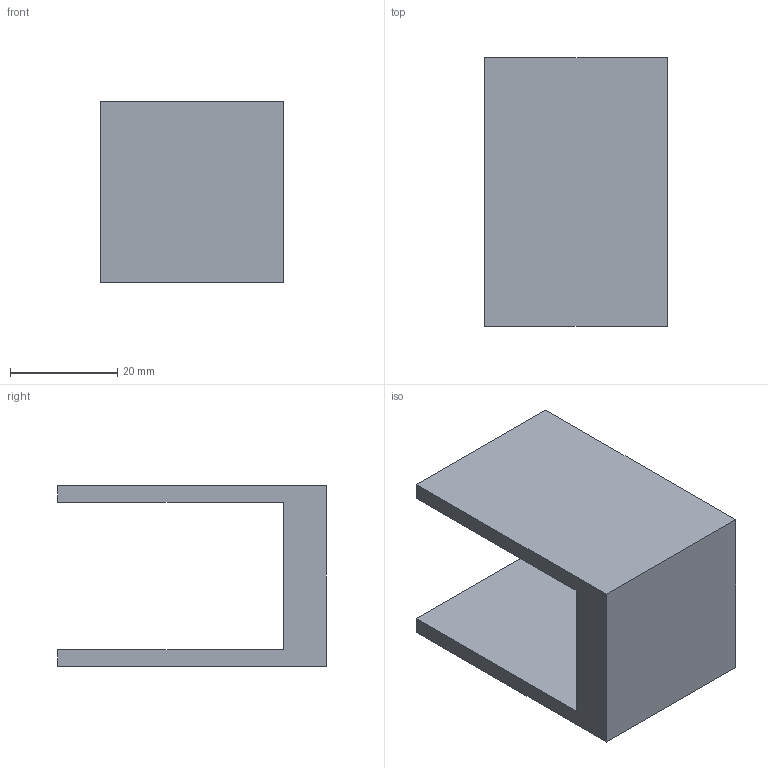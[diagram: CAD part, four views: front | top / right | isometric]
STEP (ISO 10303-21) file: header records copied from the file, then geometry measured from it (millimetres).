
FILE_DESCRIPTION(/* description */ ('STEP AP242','CAx-IF Rec.Pracs.---Representation and Presentation of Product Manufacturing Information (PMI)---4.0---2014-10-13','CAx-IF Rec.Pracs.---3D Tessellated Geometry---0.4---2014-09-14','2;1'),/* implementation_level */ '2;1');
FILE_NAME(/* name */ '65d97b0f26fcd7072ec13f4f',/* time_stamp */ '2024-02-24T05:13:52Z',/* author */ (''),/* organization */ (''),/* preprocessor_version */ 'ST-DEVELOPER v19.4',/* originating_system */ ' ',/* authorisation */ ' ');
FILE_SCHEMA (('AP242_MANAGED_MODEL_BASED_3D_ENGINEERING_MIM_LF { 1 0 10303 442 1 1 4 }'));
Length unit declared in the file: metre
Products named in the file (1): Part 1
Bounding box: 34 x 50 x 33.69 mm (x, y, z)
Volume: 18145.8 mm3; surface area: 9614.3 mm2
Topology: 1 solids, 1 shells, 10 faces, 24 edges, 16 vertices
Faces by surface type: plane 10
Entity records: 310 total; most frequent: CARTESIAN_POINT 51, ORIENTED_EDGE 48, DIRECTION 46, EDGE_CURVE 24, LINE 24, VECTOR 24, VERTEX_POINT 16, AXIS2_PLACEMENT_3D 11
